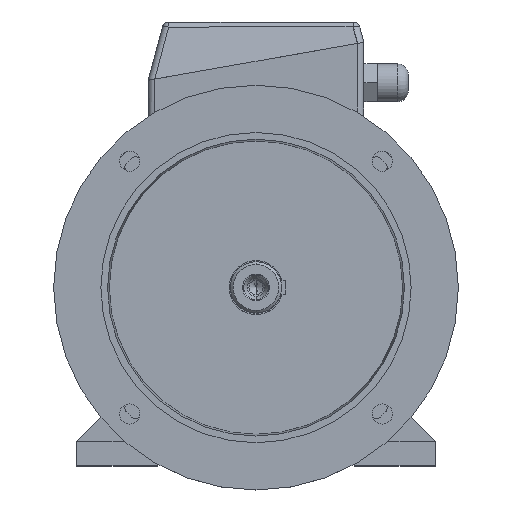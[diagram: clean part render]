
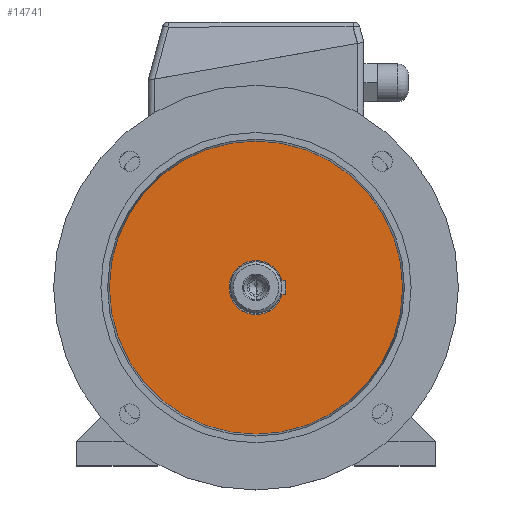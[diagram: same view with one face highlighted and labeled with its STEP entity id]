
A CAD part, top view. The second image highlights one B-rep face of the part: STEP entity #14741.
In plain terms, the highlighted planar face has unit normal (0, 0, 1).
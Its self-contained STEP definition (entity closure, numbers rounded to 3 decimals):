
#16405 = EDGE_CURVE ( 'NONE', #556, #16156, #3001, .T. ) ;
#262 = CARTESIAN_POINT ( 'NONE',  ( 108.688, 0., 47. ) ) ;
#384 = CARTESIAN_POINT ( 'NONE',  ( -108.688, 0., 47. ) ) ;
#551 = CIRCLE ( 'NONE', #552, 108.688 ) ;
#552 = AXIS2_PLACEMENT_3D ( 'NONE', #553, #558, #559 ) ;
#553 = CARTESIAN_POINT ( 'NONE',  ( 0., 0., 47. ) ) ;
#556 = VERTEX_POINT ( 'NONE', #13457 ) ;
#558 = DIRECTION ( 'NONE',  ( 0., 0., 1. ) ) ;
#559 = DIRECTION ( 'NONE',  ( 1., 0., 0. ) ) ;
#2759 = CARTESIAN_POINT ( 'NONE',  ( 0., 20., 47. ) ) ;
#3001 = CIRCLE ( 'NONE', #3002, 20. ) ;
#3002 = AXIS2_PLACEMENT_3D ( 'NONE', #3003, #3004, #3005 ) ;
#3003 = CARTESIAN_POINT ( 'NONE',  ( 0., 0., 47. ) ) ;
#3004 = DIRECTION ( 'NONE',  ( 0., 0., 1. ) ) ;
#3005 = DIRECTION ( 'NONE',  ( 1., 0., 0. ) ) ;
#3007 = CIRCLE ( 'NONE', #3008, 108.688 ) ;
#3008 = AXIS2_PLACEMENT_3D ( 'NONE', #3012, #3013, #3014 ) ;
#3012 = CARTESIAN_POINT ( 'NONE',  ( 0., 0., 47. ) ) ;
#3013 = DIRECTION ( 'NONE',  ( 0., 0., 1. ) ) ;
#3014 = DIRECTION ( 'NONE',  ( 1., 0., 0. ) ) ;
#6517 = VERTEX_POINT ( 'NONE', #262 ) ;
#6783 = VERTEX_POINT ( 'NONE', #384 ) ;
#7024 = EDGE_CURVE ( 'NONE', #6783, #6517, #551, .T. ) ;
#9758 = CIRCLE ( 'NONE', #9759, 20. ) ;
#9759 = AXIS2_PLACEMENT_3D ( 'NONE', #9760, #9761, #9762 ) ;
#9760 = CARTESIAN_POINT ( 'NONE',  ( 0., 0., 47. ) ) ;
#9761 = DIRECTION ( 'NONE',  ( 0., 0., 1. ) ) ;
#9762 = DIRECTION ( 'NONE',  ( 1., 0., 0. ) ) ;
#10192 = EDGE_CURVE ( 'NONE', #6517, #6783, #3007, .T. ) ;
#10981 = FACE_BOUND ( 'NONE', #14467, .T. ) ;
#10982 = FACE_OUTER_BOUND ( 'NONE', #12987, .T. ) ;
#10983 = PLANE ( 'NONE',  #10988 ) ;
#10988 = AXIS2_PLACEMENT_3D ( 'NONE', #10989, #10990, #10991 ) ;
#10989 = CARTESIAN_POINT ( 'NONE',  ( 0., 110., 47. ) ) ;
#10990 = DIRECTION ( 'NONE',  ( 0., 0., 1. ) ) ;
#10991 = DIRECTION ( 'NONE',  ( 1., 0., 0. ) ) ;
#12722 = ORIENTED_EDGE ( 'NONE', *, *, #7024, .T. ) ;
#12859 = ORIENTED_EDGE ( 'NONE', *, *, #10192, .T. ) ;
#12987 = EDGE_LOOP ( 'NONE', ( #12859, #12722 ) ) ;
#13050 = ORIENTED_EDGE ( 'NONE', *, *, #16405, .F. ) ;
#13270 = EDGE_CURVE ( 'NONE', #16156, #556, #9758, .T. ) ;
#13457 = CARTESIAN_POINT ( 'NONE',  ( 0., -20., 47. ) ) ;
#13703 = ORIENTED_EDGE ( 'NONE', *, *, #13270, .F. ) ;
#14467 = EDGE_LOOP ( 'NONE', ( #13703, #13050 ) ) ;
#14741 = ADVANCED_FACE ( 'NONE', ( #10981, #10982 ), #10983, .T. ) ;
#16156 = VERTEX_POINT ( 'NONE', #2759 ) ;
